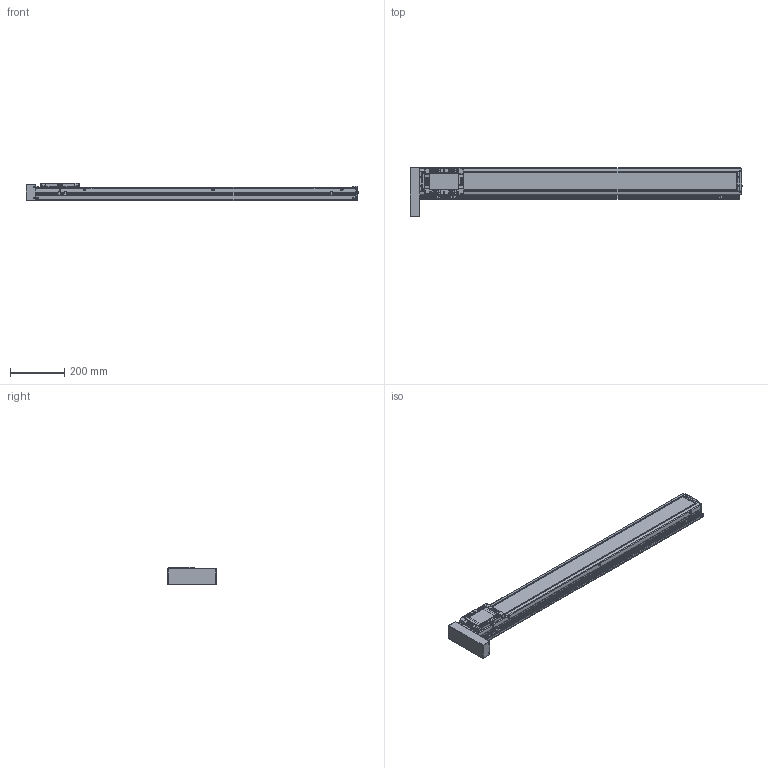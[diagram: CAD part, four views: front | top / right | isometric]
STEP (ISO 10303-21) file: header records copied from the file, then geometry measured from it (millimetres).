
FILE_DESCRIPTION(('STEP AP214'),'1');
FILE_NAME('Z:/Web/3D/SAN100/SAN100 양산용 (STEP)/SAN100ㅁㅁ-1000PR+3SR.stp','2013-04-30T05:10:59',(' '),(' '),'Spatial InterOp 3D',' ',' ');
FILE_SCHEMA(('automotive_design'));
Length unit declared in the file: millimetre
Products named in the file (51): EE-SX674; SBK-SX674-352; 스크루 : Round - M3.0 x 6.0; M3.0 x 6.0; SRL-16x17-380L; SGD-SAN100; SUS COVER; SFX-SAN100; RRCV-SAN100; 스크루 : Round - M4.0 x 10.0; FRBL-SAN100; SLBL-SAN100; SLCV-SAN100; 스크루 : Countersunk - M3.0 x 6.0; BASE; 스크루 : Round - M5.0 x 6.0; BTCV-SAN65; BHCS M3 X 6L
Bounding box: 1226.5 x 184.13 x 66 mm (x, y, z)
Volume: 3619413.4 mm3; surface area: 931824.5 mm2
Topology: 51 solids, 52 shells, 2527 faces, 6598 edges, 4261 vertices
Faces by surface type: plane 1316, cylinder 891, cone 218, sphere 68, torus 18, bspline 16
Entity records: 99836 total; most frequent: CARTESIAN_POINT 15043, DIRECTION 13881, ORIENTED_EDGE 12976, EDGE_CURVE 6488, AXIS2_PLACEMENT_3D 4952, VERTEX_POINT 4261, LINE 3977, VECTOR 3977
